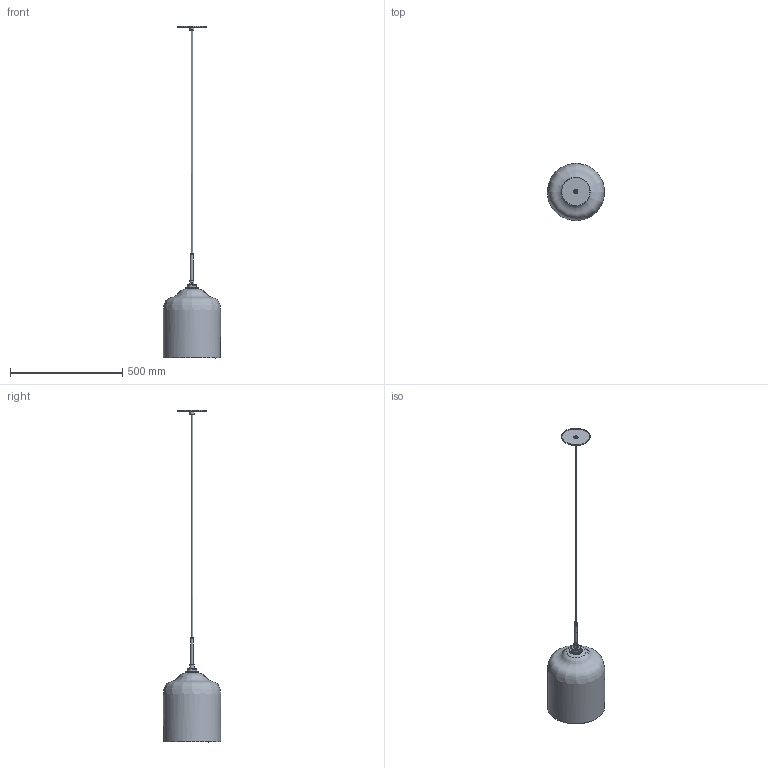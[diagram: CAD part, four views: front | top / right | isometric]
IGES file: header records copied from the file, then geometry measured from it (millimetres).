
Global section: file name: Niche - Bell Jar Pendant; native system: unknown; preprocessor: unknown; author: unknown; organization: unknown; date: 20220927.153243; units: inch
Bounding box: 254.18 x 254.59 x 1479.04 mm (x, y, z)
Volume: 901401 mm3; surface area: 626527.3 mm2
Topology: 11 solids, 11 shells, 132 faces, 322 edges, 216 vertices
Faces by surface type: bspline 132
